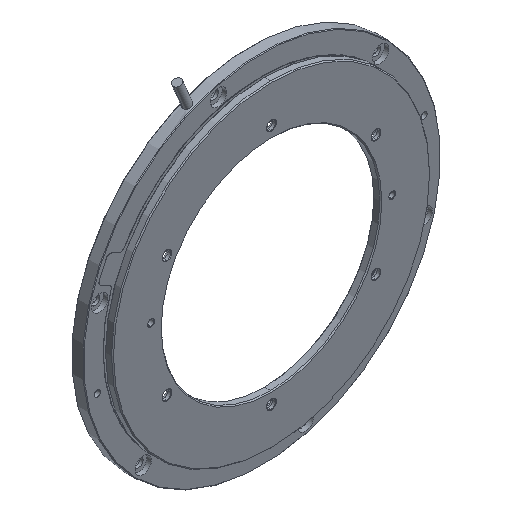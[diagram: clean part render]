
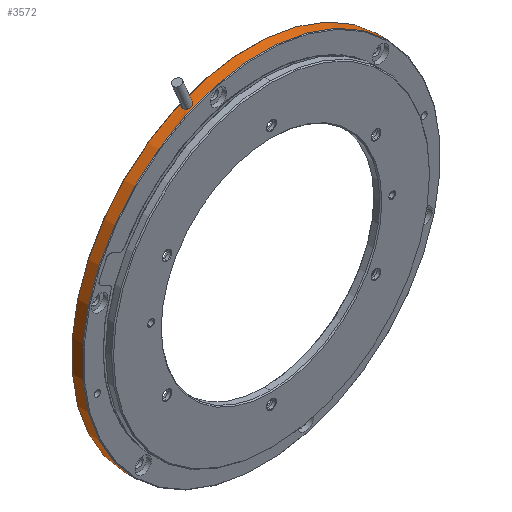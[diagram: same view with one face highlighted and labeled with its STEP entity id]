
A CAD part, isometric view. The second image highlights one B-rep face of the part: STEP entity #3572.
In plain terms, the highlighted cylindrical face has radius 90 mm (diameter 180 mm), a partial arc.
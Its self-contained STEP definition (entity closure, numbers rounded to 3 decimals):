
#202 = CARTESIAN_POINT ( 'NONE',  ( -32.445, 8.05, 83.948 ) ) ;
#378 = CARTESIAN_POINT ( 'NONE',  ( 63.64, 10.5, 63.64 ) ) ;
#384 = EDGE_CURVE ( 'NONE', #8375, #9689, #6080, .T. ) ;
#406 = ORIENTED_EDGE ( 'NONE', *, *, #8720, .T. ) ;
#447 = CARTESIAN_POINT ( 'NONE',  ( -36.158, 9.127, 82.417 ) ) ;
#507 = CARTESIAN_POINT ( 'NONE',  ( -32.548, 8.742, 83.909 ) ) ;
#509 = CARTESIAN_POINT ( 'NONE',  ( -32.847, 6.729, 83.792 ) ) ;
#553 = LINE ( 'NONE', #3836, #1568 ) ;
#624 = DIRECTION ( 'NONE',  ( 0.707, 0., 0.707 ) ) ;
#760 = CARTESIAN_POINT ( 'NONE',  ( -36.366, 7.484, 82.326 ) ) ;
#810 = ORIENTED_EDGE ( 'NONE', *, *, #1167, .T. ) ;
#913 = ORIENTED_EDGE ( 'NONE', *, *, #9641, .T. ) ;
#1136 = CARTESIAN_POINT ( 'NONE',  ( -36.405, 8.332, 82.308 ) ) ;
#1139 = AXIS2_PLACEMENT_3D ( 'NONE', #6248, #5614, #624 ) ;
#1167 = EDGE_CURVE ( 'NONE', #2324, #2985, #5367, .T. ) ;
#1248 = CARTESIAN_POINT ( 'NONE',  ( -33.56, 9.983, 83.509 ) ) ;
#1295 = CARTESIAN_POINT ( 'NONE',  ( -32.648, 9.003, 83.87 ) ) ;
#1414 = CARTESIAN_POINT ( 'NONE',  ( -34.309, 5.9, 83.204 ) ) ;
#1568 = VECTOR ( 'NONE', #8684, 1000. ) ;
#1591 = EDGE_CURVE ( 'NONE', #8375, #5587, #6513, .T. ) ;
#1789 = VERTEX_POINT ( 'NONE', #378 ) ;
#1857 = ORIENTED_EDGE ( 'NONE', *, *, #384, .F. ) ;
#1912 = CARTESIAN_POINT ( 'NONE',  ( -63.64, 4.8, -63.64 ) ) ;
#1994 = CARTESIAN_POINT ( 'NONE',  ( -34.962, 10.143, 82.932 ) ) ;
#2037 = CARTESIAN_POINT ( 'NONE',  ( -36.418, 8.05, 82.303 ) ) ;
#2052 = CARTESIAN_POINT ( 'NONE',  ( -36.418, 8.05, 82.303 ) ) ;
#2100 = CARTESIAN_POINT ( 'NONE',  ( -36.418, 8.192, 82.303 ) ) ;
#2111 = EDGE_CURVE ( 'NONE', #2985, #2324, #3648, .T. ) ;
#2161 = CARTESIAN_POINT ( 'NONE',  ( -33.925, 5.969, 83.361 ) ) ;
#2273 = CARTESIAN_POINT ( 'NONE',  ( -34.7, 5.914, 83.042 ) ) ;
#2324 = VERTEX_POINT ( 'NONE', #2037 ) ;
#2424 = CARTESIAN_POINT ( 'NONE',  ( -36.218, 7.096, 82.391 ) ) ;
#2446 = DIRECTION ( 'NONE',  ( -0.707, 0., -0.707 ) ) ;
#2872 = CARTESIAN_POINT ( 'NONE',  ( -35.439, 9.929, 82.73 ) ) ;
#2937 = CARTESIAN_POINT ( 'NONE',  ( -32.509, 7.493, 83.923 ) ) ;
#2973 = EDGE_LOOP ( 'NONE', ( #1857, #8265, #913, #406 ) ) ;
#2985 = VERTEX_POINT ( 'NONE', #202 ) ;
#3100 = EDGE_LOOP ( 'NONE', ( #810, #9672 ) ) ;
#3133 = DIRECTION ( 'NONE',  ( -0.707, 0., -0.707 ) ) ;
#3254 = CARTESIAN_POINT ( 'NONE',  ( -32.445, 8.19, 83.948 ) ) ;
#3572 = ADVANCED_FACE ( 'NONE', ( #9827, #9064 ), #9180, .T. ) ;
#3648 = B_SPLINE_CURVE_WITH_KNOTS ( 'NONE', 3,
 ( #6122, #5315, #7846, #2937, #6984, #5422, #509, #3848, #3793, #7096, #10355, #6275, #2161, #8752, #1414, #4922, #2273, #4811, #6332, #5593, #9835, #8128, #7411, #9779, #8809, #8174, #2424, #760, #9609, #3951 ),
 .UNSPECIFIED., .F., .F.,
 ( 4, 2, 2, 2, 2, 2, 2, 2, 2, 2, 2, 2, 2, 2, 4 ),
 ( 0.007, 0.007, 0.008, 0.008, 0.009, 0.009, 0.01, 0.01, 0.011, 0.011, 0.011, 0.012, 0.012, 0.013, 0.013 ),
 .UNSPECIFIED. ) ;
#3681 = CARTESIAN_POINT ( 'NONE',  ( -35.932, 9.471, 82.516 ) ) ;
#3793 = CARTESIAN_POINT ( 'NONE',  ( -33.226, 6.341, 83.642 ) ) ;
#3824 = CARTESIAN_POINT ( 'NONE',  ( -63.64, 5.1, -63.64 ) ) ;
#3836 = CARTESIAN_POINT ( 'NONE',  ( 63.64, 4.8, 63.64 ) ) ;
#3848 = CARTESIAN_POINT ( 'NONE',  ( -33.123, 6.432, 83.683 ) ) ;
#3951 = CARTESIAN_POINT ( 'NONE',  ( -36.418, 8.05, 82.303 ) ) ;
#4094 = AXIS2_PLACEMENT_3D ( 'NONE', #4746, #8111, #3133 ) ;
#4443 = CARTESIAN_POINT ( 'NONE',  ( -36.317, 8.743, 82.347 ) ) ;
#4551 = CARTESIAN_POINT ( 'NONE',  ( -36.015, 9.361, 82.48 ) ) ;
#4746 = CARTESIAN_POINT ( 'NONE',  ( 0., 5.1, 0. ) ) ;
#4811 = CARTESIAN_POINT ( 'NONE',  ( -34.954, 5.968, 82.935 ) ) ;
#4871 = CARTESIAN_POINT ( 'NONE',  ( -32.51, 8.608, 83.923 ) ) ;
#4922 = CARTESIAN_POINT ( 'NONE',  ( -34.571, 5.9, 83.096 ) ) ;
#5311 = CARTESIAN_POINT ( 'NONE',  ( -34.701, 10.2, 83.042 ) ) ;
#5315 = CARTESIAN_POINT ( 'NONE',  ( -32.445, 7.91, 83.948 ) ) ;
#5330 = VECTOR ( 'NONE', #9403, 1000. ) ;
#5348 = CIRCLE ( 'NONE', #7068, 90. ) ;
#5367 = B_SPLINE_CURVE_WITH_KNOTS ( 'NONE', 3,
 ( #2052, #2100, #1136, #6119, #4443, #7741, #447, #4551, #3681, #6934, #2872, #1994, #5311, #6980, #6170, #9450, #8645, #1248, #7844, #7031, #10296, #6225, #5420, #8694, #1295, #507, #4871, #9606, #3254, #5691 ),
 .UNSPECIFIED., .F., .F.,
 ( 4, 2, 2, 2, 2, 2, 2, 2, 2, 2, 2, 2, 2, 2, 4 ),
 ( 0., 0., 0.001, 0.001, 0.002, 0.003, 0.003, 0.004, 0.004, 0.005, 0.005, 0.005, 0.006, 0.006, 0.007 ),
 .UNSPECIFIED. ) ;
#5420 = CARTESIAN_POINT ( 'NONE',  ( -32.856, 9.361, 83.788 ) ) ;
#5422 = CARTESIAN_POINT ( 'NONE',  ( -32.698, 6.969, 83.85 ) ) ;
#5587 = VERTEX_POINT ( 'NONE', #9175 ) ;
#5593 = CARTESIAN_POINT ( 'NONE',  ( -35.319, 6.117, 82.78 ) ) ;
#5614 = DIRECTION ( 'NONE',  ( 0., 1., 0. ) ) ;
#5691 = CARTESIAN_POINT ( 'NONE',  ( -32.445, 8.05, 83.948 ) ) ;
#6080 = LINE ( 'NONE', #1912, #5330 ) ;
#6119 = CARTESIAN_POINT ( 'NONE',  ( -36.355, 8.607, 82.33 ) ) ;
#6122 = CARTESIAN_POINT ( 'NONE',  ( -32.445, 8.05, 83.948 ) ) ;
#6170 = CARTESIAN_POINT ( 'NONE',  ( -34.181, 10.186, 83.257 ) ) ;
#6225 = CARTESIAN_POINT ( 'NONE',  ( -32.939, 9.47, 83.756 ) ) ;
#6248 = CARTESIAN_POINT ( 'NONE',  ( 0., 4.8, 0. ) ) ;
#6275 = CARTESIAN_POINT ( 'NONE',  ( -33.799, 6.01, 83.413 ) ) ;
#6332 = CARTESIAN_POINT ( 'NONE',  ( -35.079, 6.009, 82.882 ) ) ;
#6513 = CIRCLE ( 'NONE', #4094, 90. ) ;
#6934 = CARTESIAN_POINT ( 'NONE',  ( -35.659, 9.769, 82.635 ) ) ;
#6980 = CARTESIAN_POINT ( 'NONE',  ( -34.313, 10.2, 83.203 ) ) ;
#6984 = CARTESIAN_POINT ( 'NONE',  ( -32.548, 7.357, 83.909 ) ) ;
#7031 = CARTESIAN_POINT ( 'NONE',  ( -33.227, 9.76, 83.642 ) ) ;
#7068 = AXIS2_PLACEMENT_3D ( 'NONE', #10057, #8251, #2446 ) ;
#7096 = CARTESIAN_POINT ( 'NONE',  ( -33.443, 6.184, 83.556 ) ) ;
#7411 = CARTESIAN_POINT ( 'NONE',  ( -35.749, 6.429, 82.595 ) ) ;
#7741 = CARTESIAN_POINT ( 'NONE',  ( -36.219, 9.004, 82.391 ) ) ;
#7844 = CARTESIAN_POINT ( 'NONE',  ( -33.443, 9.916, 83.556 ) ) ;
#7846 = CARTESIAN_POINT ( 'NONE',  ( -32.458, 7.77, 83.943 ) ) ;
#8111 = DIRECTION ( 'NONE',  ( 0., 1., 0. ) ) ;
#8128 = CARTESIAN_POINT ( 'NONE',  ( -35.647, 6.339, 82.639 ) ) ;
#8174 = CARTESIAN_POINT ( 'NONE',  ( -36.157, 6.97, 82.418 ) ) ;
#8251 = DIRECTION ( 'NONE',  ( 0., -1., 0. ) ) ;
#8265 = ORIENTED_EDGE ( 'NONE', *, *, #1591, .T. ) ;
#8375 = VERTEX_POINT ( 'NONE', #3824 ) ;
#8645 = CARTESIAN_POINT ( 'NONE',  ( -33.801, 10.091, 83.411 ) ) ;
#8684 = DIRECTION ( 'NONE',  ( 0., 1., 0. ) ) ;
#8694 = CARTESIAN_POINT ( 'NONE',  ( -32.711, 9.129, 83.845 ) ) ;
#8720 = EDGE_CURVE ( 'NONE', #1789, #9689, #5348, .T. ) ;
#8752 = CARTESIAN_POINT ( 'NONE',  ( -34.18, 5.914, 83.257 ) ) ;
#8798 = CARTESIAN_POINT ( 'NONE',  ( -63.64, 10.5, -63.64 ) ) ;
#8809 = CARTESIAN_POINT ( 'NONE',  ( -36.013, 6.736, 82.481 ) ) ;
#9064 = FACE_BOUND ( 'NONE', #3100, .T. ) ;
#9175 = CARTESIAN_POINT ( 'NONE',  ( 63.64, 5.1, 63.64 ) ) ;
#9180 = CYLINDRICAL_SURFACE ( 'NONE', #1139, 90. ) ;
#9403 = DIRECTION ( 'NONE',  ( 0., 1., 0. ) ) ;
#9450 = CARTESIAN_POINT ( 'NONE',  ( -33.926, 10.131, 83.361 ) ) ;
#9606 = CARTESIAN_POINT ( 'NONE',  ( -32.458, 8.333, 83.943 ) ) ;
#9609 = CARTESIAN_POINT ( 'NONE',  ( -36.418, 7.766, 82.303 ) ) ;
#9641 = EDGE_CURVE ( 'NONE', #5587, #1789, #553, .T. ) ;
#9672 = ORIENTED_EDGE ( 'NONE', *, *, #2111, .T. ) ;
#9689 = VERTEX_POINT ( 'NONE', #8798 ) ;
#9779 = CARTESIAN_POINT ( 'NONE',  ( -35.931, 6.628, 82.516 ) ) ;
#9827 = FACE_OUTER_BOUND ( 'NONE', #2973, .T. ) ;
#9835 = CARTESIAN_POINT ( 'NONE',  ( -35.433, 6.183, 82.732 ) ) ;
#10057 = CARTESIAN_POINT ( 'NONE',  ( 0., 10.5, 0. ) ) ;
#10296 = CARTESIAN_POINT ( 'NONE',  ( -33.126, 9.671, 83.682 ) ) ;
#10355 = CARTESIAN_POINT ( 'NONE',  ( -33.558, 6.118, 83.51 ) ) ;
